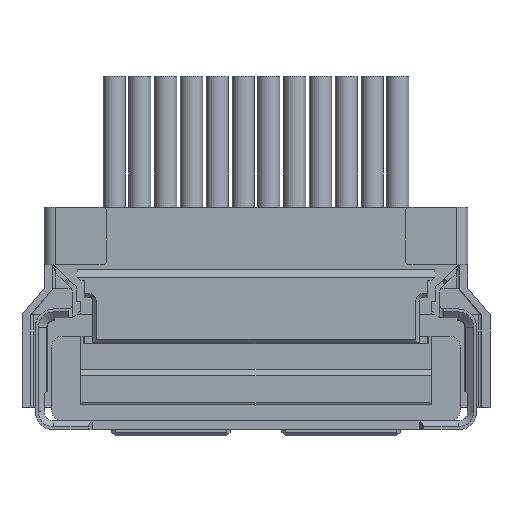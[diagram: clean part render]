
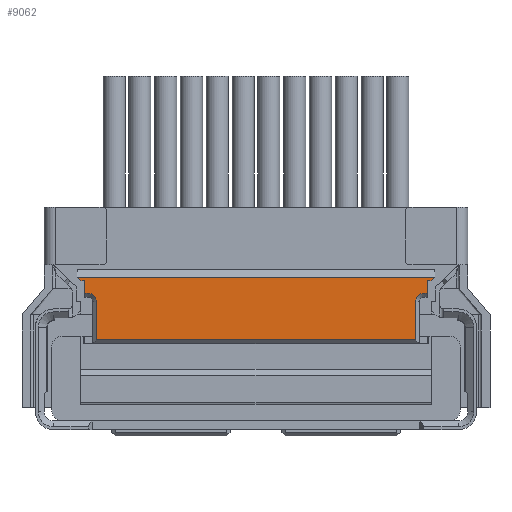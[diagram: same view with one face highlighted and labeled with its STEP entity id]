
A CAD part, front view. The second image highlights one B-rep face of the part: STEP entity #9062.
In plain terms, the highlighted planar face has unit normal (0, -1, 0).
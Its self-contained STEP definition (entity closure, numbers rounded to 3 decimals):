
#25 = ORIENTED_EDGE ( 'NONE', *, *, #4281, .T. ) ;
#76 = VERTEX_POINT ( 'NONE', #5291 ) ;
#107 = DIRECTION ( 'NONE',  ( 0., 0., -1. ) ) ;
#119 = DIRECTION ( 'NONE',  ( 0., 0., 1. ) ) ;
#162 = FACE_OUTER_BOUND ( 'NONE', #5058, .T. ) ;
#253 = CARTESIAN_POINT ( 'NONE',  ( 1.8, 0.05, 1.03 ) ) ;
#315 = VECTOR ( 'NONE', #3728, 1000. ) ;
#446 = CARTESIAN_POINT ( 'NONE',  ( 1.8, 0.05, 1.2 ) ) ;
#449 = VERTEX_POINT ( 'NONE', #7202 ) ;
#645 = DIRECTION ( 'NONE',  ( 0., 0., -1. ) ) ;
#760 = ORIENTED_EDGE ( 'NONE', *, *, #4813, .T. ) ;
#899 = VECTOR ( 'NONE', #9496, 1000. ) ;
#990 = VERTEX_POINT ( 'NONE', #7490 ) ;
#1060 = LINE ( 'NONE', #7292, #7930 ) ;
#1361 = EDGE_CURVE ( 'NONE', #4488, #8435, #8506, .T. ) ;
#1372 = DIRECTION ( 'NONE',  ( 0., 1., 0. ) ) ;
#1482 = VERTEX_POINT ( 'NONE', #7196 ) ;
#1580 = EDGE_CURVE ( 'NONE', #449, #6637, #8347, .T. ) ;
#1597 = AXIS2_PLACEMENT_3D ( 'NONE', #3734, #1372, #645 ) ;
#1629 = VERTEX_POINT ( 'NONE', #2896 ) ;
#1639 = LINE ( 'NONE', #8025, #4267 ) ;
#1764 = VECTOR ( 'NONE', #9766, 1000. ) ;
#1819 = ORIENTED_EDGE ( 'NONE', *, *, #1580, .F. ) ;
#2062 = CARTESIAN_POINT ( 'NONE',  ( -2.69, 0.05, 0.92 ) ) ;
#2347 = EDGE_CURVE ( 'NONE', #449, #1629, #4693, .T. ) ;
#2412 = CARTESIAN_POINT ( 'NONE',  ( -2.69, 0.05, 0.92 ) ) ;
#2616 = CARTESIAN_POINT ( 'NONE',  ( 1.85, 0.05, 1.2 ) ) ;
#2634 = ORIENTED_EDGE ( 'NONE', *, *, #4971, .F. ) ;
#2686 = AXIS2_PLACEMENT_3D ( 'NONE', #8890, #4086, #107 ) ;
#2706 = LINE ( 'NONE', #253, #1764 ) ;
#2754 = DIRECTION ( 'NONE',  ( 0., 0., -1. ) ) ;
#2771 = AXIS2_PLACEMENT_3D ( 'NONE', #3598, #10131, #2754 ) ;
#2896 = CARTESIAN_POINT ( 'NONE',  ( -2.85, 0.05, 1.03 ) ) ;
#3059 = VERTEX_POINT ( 'NONE', #8485 ) ;
#3239 = ORIENTED_EDGE ( 'NONE', *, *, #6067, .T. ) ;
#3291 = CARTESIAN_POINT ( 'NONE',  ( 1.64, 0.05, 0.4 ) ) ;
#3301 = CARTESIAN_POINT ( 'NONE',  ( -2.9, 0.05, 1.2 ) ) ;
#3346 = VERTEX_POINT ( 'NONE', #9882 ) ;
#3405 = LINE ( 'NONE', #2616, #10207 ) ;
#3488 = DIRECTION ( 'NONE',  ( -1., 0., 0. ) ) ;
#3598 = CARTESIAN_POINT ( 'NONE',  ( -2.8, 0.05, 0.92 ) ) ;
#3655 = VERTEX_POINT ( 'NONE', #5905 ) ;
#3706 = EDGE_CURVE ( 'NONE', #6428, #3655, #2706, .T. ) ;
#3728 = DIRECTION ( 'NONE',  ( -1., 0., 0. ) ) ;
#3734 = CARTESIAN_POINT ( 'NONE',  ( 1.75, 0.05, 0.92 ) ) ;
#3856 = ORIENTED_EDGE ( 'NONE', *, *, #7795, .T. ) ;
#3865 = CARTESIAN_POINT ( 'NONE',  ( -2.85, 0.05, 1.03 ) ) ;
#3938 = LINE ( 'NONE', #8484, #7278 ) ;
#3947 = ORIENTED_EDGE ( 'NONE', *, *, #5117, .F. ) ;
#4069 = ORIENTED_EDGE ( 'NONE', *, *, #3706, .F. ) ;
#4086 = DIRECTION ( 'NONE',  ( 0., -1., 0. ) ) ;
#4267 = VECTOR ( 'NONE', #8857, 1000. ) ;
#4281 = EDGE_CURVE ( 'NONE', #990, #3655, #1060, .T. ) ;
#4488 = VERTEX_POINT ( 'NONE', #7645 ) ;
#4618 = VECTOR ( 'NONE', #5891, 1000. ) ;
#4693 = LINE ( 'NONE', #3865, #899 ) ;
#4813 = EDGE_CURVE ( 'NONE', #8435, #76, #1639, .T. ) ;
#4895 = DIRECTION ( 'NONE',  ( 1., 0., 0. ) ) ;
#4971 = EDGE_CURVE ( 'NONE', #3346, #1629, #3938, .T. ) ;
#4986 = EDGE_CURVE ( 'NONE', #76, #990, #8280, .T. ) ;
#4987 = CARTESIAN_POINT ( 'NONE',  ( 1.8, 0.05, 1.2 ) ) ;
#5023 = PLANE ( 'NONE',  #2686 ) ;
#5034 = DIRECTION ( 'NONE',  ( 1., 0., 0. ) ) ;
#5058 = EDGE_LOOP ( 'NONE', ( #8458, #760, #9058, #25, #4069, #3239, #8927, #3856, #9746, #1819, #6091, #2634, #9774, #3947 ) ) ;
#5117 = EDGE_CURVE ( 'NONE', #4488, #7447, #9573, .T. ) ;
#5190 = LINE ( 'NONE', #7648, #315 ) ;
#5291 = CARTESIAN_POINT ( 'NONE',  ( 1.64, 0.05, 0.92 ) ) ;
#5752 = EDGE_CURVE ( 'NONE', #7447, #3346, #7288, .T. ) ;
#5779 = VERTEX_POINT ( 'NONE', #6740 ) ;
#5891 = DIRECTION ( 'NONE',  ( 1., 0., 0. ) ) ;
#5900 = VECTOR ( 'NONE', #4895, 1000. ) ;
#5905 = CARTESIAN_POINT ( 'NONE',  ( 1.8, 0.05, 1.03 ) ) ;
#6067 = EDGE_CURVE ( 'NONE', #6428, #5779, #9964, .T. ) ;
#6091 = ORIENTED_EDGE ( 'NONE', *, *, #2347, .T. ) ;
#6310 = CARTESIAN_POINT ( 'NONE',  ( 0.94, 0.05, 0.4 ) ) ;
#6428 = VERTEX_POINT ( 'NONE', #4987 ) ;
#6435 = LINE ( 'NONE', #3301, #9468 ) ;
#6637 = VERTEX_POINT ( 'NONE', #9105 ) ;
#6740 = CARTESIAN_POINT ( 'NONE',  ( 1.85, 0.05, 1.2 ) ) ;
#6832 = EDGE_CURVE ( 'NONE', #6637, #1482, #6435, .T. ) ;
#7196 = CARTESIAN_POINT ( 'NONE',  ( -2.95, 0.05, 1.25 ) ) ;
#7202 = CARTESIAN_POINT ( 'NONE',  ( -2.85, 0.05, 1.2 ) ) ;
#7278 = VECTOR ( 'NONE', #7807, 1000. ) ;
#7288 = CIRCLE ( 'NONE', #2771, 0.11 ) ;
#7292 = CARTESIAN_POINT ( 'NONE',  ( 1.85, 0.05, 1.03 ) ) ;
#7447 = VERTEX_POINT ( 'NONE', #2062 ) ;
#7490 = CARTESIAN_POINT ( 'NONE',  ( 1.75, 0.05, 1.03 ) ) ;
#7645 = CARTESIAN_POINT ( 'NONE',  ( -2.69, 0.05, 0.4 ) ) ;
#7648 = CARTESIAN_POINT ( 'NONE',  ( 0.7, 0.05, 1.25 ) ) ;
#7795 = EDGE_CURVE ( 'NONE', #3059, #1482, #5190, .T. ) ;
#7807 = DIRECTION ( 'NONE',  ( -1., 0., 0. ) ) ;
#7930 = VECTOR ( 'NONE', #5034, 1000. ) ;
#8025 = CARTESIAN_POINT ( 'NONE',  ( 1.64, 0.05, 0.92 ) ) ;
#8112 = DIRECTION ( 'NONE',  ( 0.707, 0., 0.707 ) ) ;
#8142 = CARTESIAN_POINT ( 'NONE',  ( -2.85, 0.05, 1.2 ) ) ;
#8280 = CIRCLE ( 'NONE', #1597, 0.11 ) ;
#8347 = LINE ( 'NONE', #8142, #8726 ) ;
#8435 = VERTEX_POINT ( 'NONE', #3291 ) ;
#8458 = ORIENTED_EDGE ( 'NONE', *, *, #1361, .T. ) ;
#8484 = CARTESIAN_POINT ( 'NONE',  ( -2.9, 0.05, 1.03 ) ) ;
#8485 = CARTESIAN_POINT ( 'NONE',  ( 1.9, 0.05, 1.25 ) ) ;
#8506 = LINE ( 'NONE', #6310, #5900 ) ;
#8726 = VECTOR ( 'NONE', #3488, 1000. ) ;
#8857 = DIRECTION ( 'NONE',  ( 0., 0., 1. ) ) ;
#8890 = CARTESIAN_POINT ( 'NONE',  ( 0.7, 0.05, 0. ) ) ;
#8927 = ORIENTED_EDGE ( 'NONE', *, *, #8971, .T. ) ;
#8971 = EDGE_CURVE ( 'NONE', #5779, #3059, #3405, .T. ) ;
#9058 = ORIENTED_EDGE ( 'NONE', *, *, #4986, .T. ) ;
#9062 = ADVANCED_FACE ( 'NONE', ( #162 ), #5023, .T. ) ;
#9105 = CARTESIAN_POINT ( 'NONE',  ( -2.9, 0.05, 1.2 ) ) ;
#9468 = VECTOR ( 'NONE', #9780, 1000. ) ;
#9496 = DIRECTION ( 'NONE',  ( 0., 0., -1. ) ) ;
#9573 = LINE ( 'NONE', #2412, #9951 ) ;
#9746 = ORIENTED_EDGE ( 'NONE', *, *, #6832, .F. ) ;
#9766 = DIRECTION ( 'NONE',  ( 0., 0., -1. ) ) ;
#9774 = ORIENTED_EDGE ( 'NONE', *, *, #5752, .F. ) ;
#9780 = DIRECTION ( 'NONE',  ( -0.707, 0., 0.707 ) ) ;
#9882 = CARTESIAN_POINT ( 'NONE',  ( -2.8, 0.05, 1.03 ) ) ;
#9951 = VECTOR ( 'NONE', #119, 1000. ) ;
#9964 = LINE ( 'NONE', #446, #4618 ) ;
#10131 = DIRECTION ( 'NONE',  ( 0., -1., 0. ) ) ;
#10207 = VECTOR ( 'NONE', #8112, 1000. ) ;
